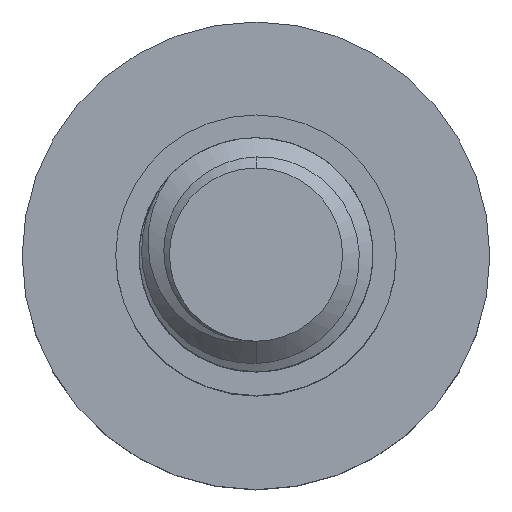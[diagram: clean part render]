
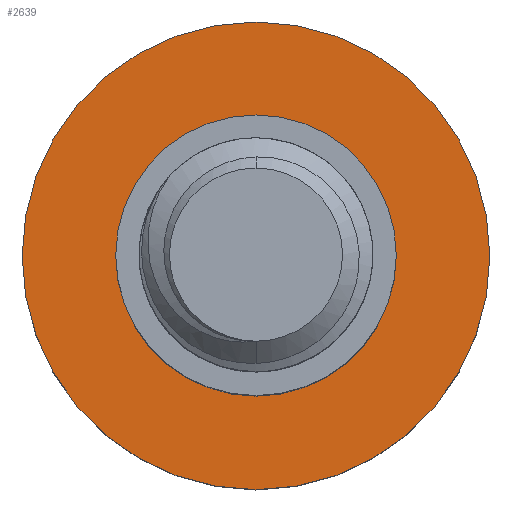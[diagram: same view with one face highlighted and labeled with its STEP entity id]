
A CAD part, top view. The second image highlights one B-rep face of the part: STEP entity #2639.
In plain terms, the highlighted planar face has unit normal (0, 0, 1).
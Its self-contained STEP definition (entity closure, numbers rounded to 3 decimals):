
#42 = VERTEX_POINT ( 'NONE', #3386 ) ;
#85 = CARTESIAN_POINT ( 'NONE',  ( 0., 0., -14. ) ) ;
#258 = CIRCLE ( 'NONE', #3081, 6. ) ;
#323 = DIRECTION ( 'NONE',  ( 0., 0., -1. ) ) ;
#376 = CIRCLE ( 'NONE', #2774, 6. ) ;
#379 = CIRCLE ( 'NONE', #3190, 10. ) ;
#581 = CARTESIAN_POINT ( 'NONE',  ( 0., 0., -14. ) ) ;
#716 = ORIENTED_EDGE ( 'NONE', *, *, #3486, .T. ) ;
#812 = ORIENTED_EDGE ( 'NONE', *, *, #2117, .F. ) ;
#816 = EDGE_LOOP ( 'NONE', ( #716, #2692 ) ) ;
#857 = DIRECTION ( 'NONE',  ( -1., 0., 0. ) ) ;
#883 = VERTEX_POINT ( 'NONE', #912 ) ;
#912 = CARTESIAN_POINT ( 'NONE',  ( 10., 0., -14. ) ) ;
#1018 = CARTESIAN_POINT ( 'NONE',  ( 0., 0., -14. ) ) ;
#1092 = PLANE ( 'NONE',  #1855 ) ;
#1177 = DIRECTION ( 'NONE',  ( 0., 0., -1. ) ) ;
#1385 = FACE_OUTER_BOUND ( 'NONE', #2141, .T. ) ;
#1404 = CARTESIAN_POINT ( 'NONE',  ( 0., 0., -14. ) ) ;
#1406 = DIRECTION ( 'NONE',  ( -1., 0., 0. ) ) ;
#1412 = DIRECTION ( 'NONE',  ( -1., 0., 0. ) ) ;
#1423 = DIRECTION ( 'NONE',  ( -1., 0., 0. ) ) ;
#1653 = VERTEX_POINT ( 'NONE', #1927 ) ;
#1657 = FACE_BOUND ( 'NONE', #816, .T. ) ;
#1660 = DIRECTION ( 'NONE',  ( 0., 0., -1. ) ) ;
#1736 = EDGE_CURVE ( 'NONE', #1653, #883, #2663, .T. ) ;
#1783 = DIRECTION ( 'NONE',  ( -1., 0., 0. ) ) ;
#1855 = AXIS2_PLACEMENT_3D ( 'NONE', #1404, #2757, #857 ) ;
#1889 = ORIENTED_EDGE ( 'NONE', *, *, #1736, .F. ) ;
#1927 = CARTESIAN_POINT ( 'NONE',  ( -10., 0., -14. ) ) ;
#2100 = CARTESIAN_POINT ( 'NONE',  ( 6., 0., -14. ) ) ;
#2117 = EDGE_CURVE ( 'NONE', #883, #1653, #379, .T. ) ;
#2141 = EDGE_LOOP ( 'NONE', ( #812, #1889 ) ) ;
#2214 = EDGE_CURVE ( 'NONE', #3360, #42, #258, .T. ) ;
#2379 = AXIS2_PLACEMENT_3D ( 'NONE', #85, #1177, #1412 ) ;
#2639 = ADVANCED_FACE ( 'NONE', ( #1657, #1385 ), #1092, .F. ) ;
#2663 = CIRCLE ( 'NONE', #2379, 10. ) ;
#2692 = ORIENTED_EDGE ( 'NONE', *, *, #2214, .T. ) ;
#2757 = DIRECTION ( 'NONE',  ( 0., 0., -1. ) ) ;
#2774 = AXIS2_PLACEMENT_3D ( 'NONE', #581, #1660, #1423 ) ;
#3057 = CARTESIAN_POINT ( 'NONE',  ( 0., 0., -14. ) ) ;
#3081 = AXIS2_PLACEMENT_3D ( 'NONE', #1018, #3177, #1783 ) ;
#3177 = DIRECTION ( 'NONE',  ( 0., 0., -1. ) ) ;
#3190 = AXIS2_PLACEMENT_3D ( 'NONE', #3057, #323, #1406 ) ;
#3360 = VERTEX_POINT ( 'NONE', #2100 ) ;
#3386 = CARTESIAN_POINT ( 'NONE',  ( -6., 0., -14. ) ) ;
#3486 = EDGE_CURVE ( 'NONE', #42, #3360, #376, .T. ) ;
